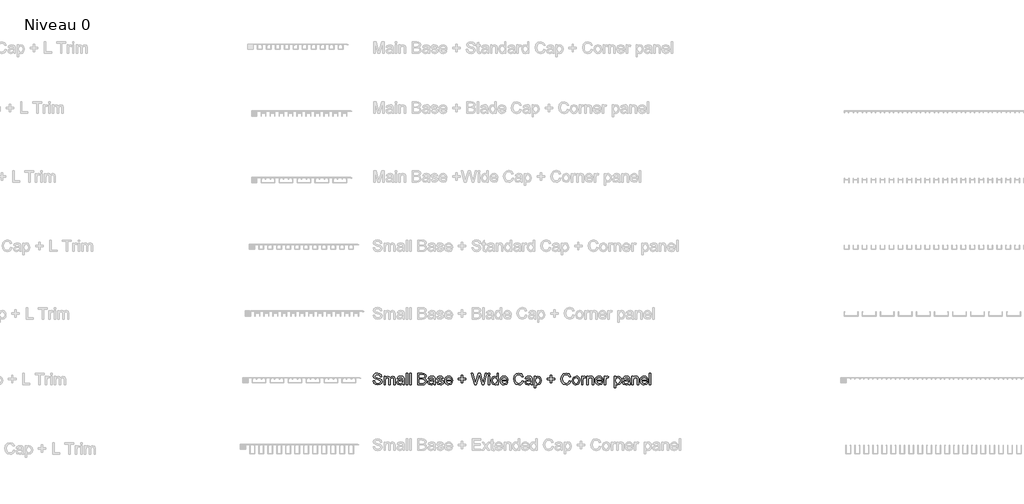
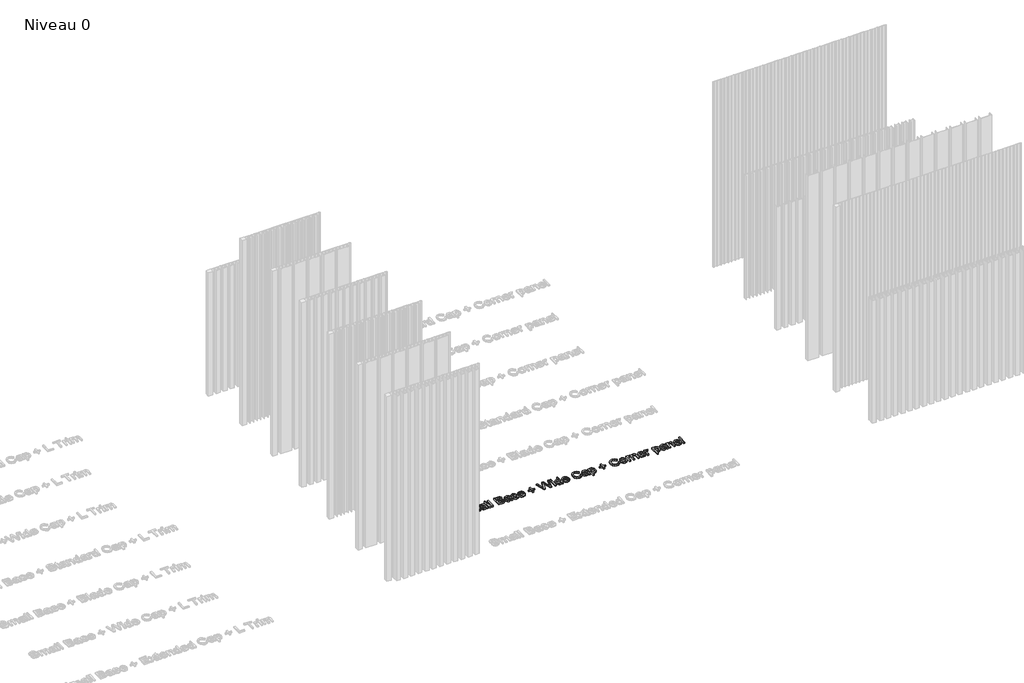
# One storey, part 13 of 25: 1 proxy.
"""IFC4 building model written with IfcOpenShell, lengths in millimetres."""

from ifc_helpers import new_model, si_unit, origin, origin_with_axes, place, context, project, spatial, polyline, outline, extrude, element, save

model = new_model("IFC4")

# Units and contexts
model_context = context("Model", 3, world=origin())
ifc_project = project(units=[si_unit("LENGTHUNIT", "METRE", prefix="MILLI")], contexts=[model_context])

# Site, building, storey
site = spatial("IfcSite", under=ifc_project)
building = spatial("IfcBuilding", under=site)
storey = spatial("IfcBuildingStorey", under=building, Name="Niveau 0", Elevation=0.0)

# Proxy
placement = place(None, origin())
element("IfcBuildingElementProxy", 1, Name="70mm Arial", ObjectType="70mm Arial", at=placement, inside=storey, context=model_context, shape_type="SweptSolid", body=[
    extrude(outline(polyline([(3882.8802856, 2508.3706743), (3891.6702128, 2508.3706743), (3894.5029041, 2499.5721633), (3901.4215382, 2494.0097875), (3911.9625836, 2491.8895609), (3921.1473708, 2493.4947527), (3927.0788548, 2497.9068841), (3929.0274031, 2503.8040325), (3927.5681379, 2509.289153), (3921.5937343, 2513.2806727), (3908.7951196, 2516.6369827), (3895.0179389, 2520.9718589), (3887.5413505, 2527.5128008), (3885.0777674, 2536.2512245), (3888.1250566, 2546.1999799), (3897.0265746, 2553.2216209), (3910.0569549, 2555.6165327), (3923.9628943, 2553.11003), (3933.2335206, 2545.7450325), (3936.7185893, 2534.7404557), (3927.9286622, 2534.7404557), (3922.9499925, 2543.7707324), (3910.4003114, 2546.8266055), (3897.8162946, 2543.8050681), (3893.8676945, 2536.5087418), (3896.6660503, 2530.4141635), (3911.0183532, 2525.5041651), (3926.5724039, 2521.0920337), (3935.0790619, 2513.9673857), (3937.8173302, 2504.0272142), (3934.6670341, 2493.5119205), (3925.6024217, 2485.8379021), (3912.3059401, 2483.0996338), (3896.6059629, 2486.0524999), (3886.6743753, 2494.945434), (3882.8802856, 2508.3706743)])), origin_with_axes(), (0.0, 0.0, 1.0), 10.0),
    extrude(outline(polyline([(3949.9034801, 2484.1983747), (3949.9034801, 2535.8391966), (3958.6934072, 2535.8391966), (3958.6934072, 2527.3411225), (3964.7364821, 2534.3026761), (3973.3375631, 2536.9379375), (3982.1446581, 2534.2511727), (3986.9859852, 2526.7230808), (3993.8445318, 2534.3842233), (4002.5057003, 2536.9379375), (4013.9995601, 2532.6889005), (4018.0254154, 2519.5984328), (4018.0254154, 2484.1983747), (4009.2354882, 2484.1983747), (4009.2354882, 2515.821511), (4008.4200165, 2523.1607568), (4005.4671503, 2526.7745843), (4000.4455611, 2528.1480104), (3991.8015605, 2524.6286059), (3988.3594113, 2513.349344), (3988.3594113, 2484.1983747), (3979.5694841, 2484.1983747), (3979.5694841, 2516.8000771), (3977.5350967, 2525.315319), (3970.8653961, 2528.1480104), (3964.3587899, 2526.2595495), (3960.0324977, 2520.7315093), (3958.6934072, 2510.2419674), (3958.6934072, 2484.1983747), (3949.9034801, 2484.1983747)])), origin_with_axes(), (0.0, 0.0, 1.0), 10.0),
    extrude(outline(polyline([(4064.1725329, 2490.79082), (4055.648707, 2484.8335843), (4046.2321542, 2483.0996338), (4033.4678753, 2487.2714156), (4029.0128243, 2497.9326358), (4030.6952713, 2504.8856055), (4035.1159866, 2509.9329465), (4041.2706524, 2512.8171414), (4048.8759995, 2514.139064), (4064.1210294, 2517.1606014), (4064.1725329, 2519.1177337), (4061.7518693, 2525.6071721), (4052.0348796, 2528.1480104), (4043.1419455, 2526.4569795), (4038.9014923, 2520.4568241), (4030.1115652, 2521.555565), (4033.9142387, 2530.1394782), (4041.5710893, 2535.1696514), (4053.1679561, 2536.9379375), (4063.8205924, 2535.3756653), (4069.8379156, 2531.452817), (4072.5332643, 2525.4869973), (4072.96246, 2517.795811), (4072.96246, 2506.8599056), (4073.4088235, 2491.589124), (4075.1599418, 2484.1983747), (4066.3700146, 2484.1983747), (4064.1725329, 2490.79082)]), holes=[polyline([(4064.1725329, 2508.3706743), (4049.9919082, 2505.6753256), (4042.4294807, 2504.250396), (4039.0044993, 2501.9327394), (4037.8027514, 2498.5506776), (4040.420845, 2493.7951897), (4048.1034473, 2491.8895609), (4056.9963814, 2493.9926197), (4062.7304354, 2499.0828802), (4064.1210294, 2505.8813395), (4064.1725329, 2508.3706743)])]), origin_with_axes(), (0.0, 0.0, 1.0), 10.0),
    extrude(outline(polyline([(4085.0486098, 2484.1983747), (4085.0486098, 2554.5177918), (4093.8385369, 2554.5177918), (4093.8385369, 2484.1983747), (4085.0486098, 2484.1983747)])), origin_with_axes(), (0.0, 0.0, 1.0), 10.0),
    extrude(outline(polyline([(4107.0234276, 2484.1983747), (4107.0234276, 2554.5177918), (4115.8133548, 2554.5177918), (4115.8133548, 2484.1983747), (4107.0234276, 2484.1983747)])), origin_with_axes(), (0.0, 0.0, 1.0), 10.0),
    extrude(outline(polyline([(4157.5655087, 2484.1983747), (4157.5655087, 2554.5177918), (4184.3988214, 2554.5177918), (4197.5407926, 2552.4490687), (4205.3006501, 2546.088389), (4208.1075897, 2537.0924479), (4205.7470136, 2528.877643), (4198.6137817, 2522.6543059), (4207.2749502, 2516.0961962), (4210.3050715, 2505.1602908), (4208.2363484, 2495.7094023), (4203.1117522, 2488.9796143), (4195.4634856, 2485.4087064), (4184.1928075, 2484.1983747), (4157.5655087, 2484.1983747)]), holes=[polyline([(4166.3554358, 2492.9883018), (4184.3816536, 2492.9883018), (4190.9054276, 2493.3316583), (4196.4248838, 2495.245871), (4200.0816309, 2499.1515515), (4201.5151444, 2505.0744516), (4199.8326974, 2511.9072466), (4194.3819125, 2515.9846053), (4183.5232623, 2517.1606014), (4166.3554358, 2517.1606014), (4166.3554358, 2492.9883018)]), polyline([(4166.3554358, 2525.9505286), (4182.4073536, 2525.9505286), (4191.7809868, 2526.7059129), (4197.4206178, 2529.9592161), (4199.3176626, 2535.6846862), (4197.5493765, 2541.4187402), (4192.4848677, 2544.8093859), (4181.1884379, 2545.7278646), (4166.3554358, 2545.7278646), (4166.3554358, 2525.9505286)])]), origin_with_axes(), (0.0, 0.0, 1.0), 10.0),
    extrude(outline(polyline([(4254.2547072, 2490.79082), (4245.7308814, 2484.8335843), (4236.3143286, 2483.0996338), (4223.5500496, 2487.2714156), (4219.0949987, 2497.9326358), (4220.7774457, 2504.8856055), (4225.198161, 2509.9329465), (4231.3528267, 2512.8171414), (4238.9581739, 2514.139064), (4254.2032037, 2517.1606014), (4254.2547072, 2519.1177337), (4251.8340437, 2525.6071721), (4242.1170539, 2528.1480104), (4233.2241198, 2526.4569795), (4228.9836667, 2520.4568241), (4220.1937396, 2521.555565), (4223.9964131, 2530.1394782), (4231.6532637, 2535.1696514), (4243.2501305, 2536.9379375), (4253.9027668, 2535.3756653), (4259.9200899, 2531.452817), (4262.6154387, 2525.4869973), (4263.0446343, 2517.795811), (4263.0446343, 2506.8599056), (4263.4909978, 2491.589124), (4265.2421161, 2484.1983747), (4256.452189, 2484.1983747), (4254.2547072, 2490.79082)]), holes=[polyline([(4254.2547072, 2508.3706743), (4240.0740826, 2505.6753256), (4232.511655, 2504.250396), (4229.0866736, 2501.9327394), (4227.8849258, 2498.5506776), (4230.5030193, 2493.7951897), (4238.1856217, 2491.8895609), (4247.0785558, 2493.9926197), (4252.8126098, 2499.0828802), (4254.2032037, 2505.8813395), (4254.2547072, 2508.3706743)])]), origin_with_axes(), (0.0, 0.0, 1.0), 10.0),
    extrude(outline(polyline([(4271.8345615, 2499.5807472), (4280.6244886, 2500.6794881), (4284.6932635, 2494.155714), (4294.0153933, 2491.8895609), (4302.9769987, 2493.9668679), (4305.8955291, 2498.8425306), (4302.9598308, 2502.7911307), (4293.9123863, 2505.2976334), (4280.6759921, 2509.5981739), (4274.8990185, 2514.6197631), (4272.9333024, 2521.7100755), (4274.5127424, 2528.2596012), (4278.8218668, 2533.2640226), (4284.4099944, 2535.8649484), (4291.9724219, 2536.9379375), (4302.6679778, 2535.212571), (4309.466437, 2530.5429222), (4312.4879745, 2522.6543059), (4303.6980474, 2521.555565), (4300.3932408, 2526.405476), (4292.659135, 2528.1480104), (4284.2469, 2526.4827312), (4281.7232295, 2522.6028024), (4282.7704669, 2520.0447963), (4286.0495218, 2518.1048319), (4293.6205332, 2516.2335388), (4306.5221548, 2512.0960926), (4312.5137262, 2507.409276), (4314.6854563, 2499.7695933), (4312.1360341, 2491.3573583), (4304.7796204, 2485.254196), (4293.8952185, 2483.0996338), (4278.5643495, 2487.2542478), (4271.8345615, 2499.5807472)])), origin_with_axes(), (0.0, 0.0, 1.0), 10.0),
    extrude(outline(polyline([(4360.7295668, 2499.5807472), (4369.3478157, 2498.4820063), (4361.2875212, 2487.134073), (4346.2742569, 2483.0996338), (4335.9606852, 2484.8400222), (4328.0248574, 2490.0611874), (4322.9646406, 2498.4240649), (4321.2779016, 2509.58959), (4322.9818084, 2521.1306613), (4328.0935287, 2529.7617861), (4335.9220576, 2535.1438996), (4345.77639, 2536.9379375), (4355.3238475, 2535.1481916), (4362.9528003, 2529.7789539), (4367.9550758, 2521.164997), (4369.6225009, 2509.6410935), (4369.5709974, 2507.2719334), (4330.0678288, 2507.2719334), (4335.1237537, 2495.8553288), (4346.4459352, 2491.8895609), (4355.0641841, 2493.7265184), (4360.7295668, 2499.5807472)]), holes=[polyline([(4330.0678288, 2516.0618606), (4360.8325738, 2516.0618606), (4357.3131693, 2524.027732), (4345.7420543, 2528.1480104), (4334.9177397, 2524.8603716), (4330.0678288, 2516.0618606)])]), origin_with_axes(), (0.0, 0.0, 1.0), 10.0),
    extrude(outline(polyline([(4423.4608046, 2495.1857836), (4423.4608046, 2513.8643788), (4404.7822095, 2513.8643788), (4404.7822095, 2522.6543059), (4423.4608046, 2522.6543059), (4423.4608046, 2541.3329011), (4432.2507318, 2541.3329011), (4432.2507318, 2522.6543059), (4450.9293269, 2522.6543059), (4450.9293269, 2513.8643788), (4432.2507318, 2513.8643788), (4432.2507318, 2495.1857836), (4423.4608046, 2495.1857836)])), origin_with_axes(), (0.0, 0.0, 1.0), 10.0),
    extrude(outline(polyline([(4504.1667567, 2484.1983747), (4484.9902946, 2554.5177918), (4494.0549069, 2554.5177918), (4505.1796585, 2508.302003), (4508.6132238, 2494.0355392), (4512.2871386, 2506.6538917), (4526.2274137, 2554.5177918), (4539.2921296, 2554.5177918), (4549.4211472, 2519.8216145), (4556.957823, 2494.0355392), (4560.2883814, 2507.8899752), (4571.5161399, 2554.5177918), (4580.5807522, 2554.5177918), (4561.3871223, 2484.1983747), (4551.9963212, 2484.1983747), (4535.1375156, 2538.4487062), (4532.7855234, 2546.0197177), (4530.1416781, 2536.9036019), (4514.7764735, 2484.1983747), (4504.1667567, 2484.1983747)])), origin_with_axes(), (0.0, 0.0, 1.0), 10.0),
    extrude(outline(polyline([(4588.2719385, 2545.7278646), (4588.2719385, 2554.5177918), (4597.0618656, 2554.5177918), (4597.0618656, 2545.7278646), (4588.2719385, 2545.7278646)])), origin_with_axes(), (0.0, 0.0, 1.0), 10.0),
    extrude(outline(polyline([(4588.2719385, 2484.1983747), (4588.2719385, 2535.8391966), (4597.0618656, 2535.8391966), (4597.0618656, 2484.1983747), (4588.2719385, 2484.1983747)])), origin_with_axes(), (0.0, 0.0, 1.0), 10.0),
    extrude(outline(polyline([(4642.1102422, 2484.1983747), (4642.1102422, 2492.4904349), (4636.294641, 2485.4473341), (4628.2558062, 2483.0996338), (4617.3714043, 2486.4988634), (4609.680218, 2495.9840875), (4606.9505336, 2509.9672822), (4609.4656202, 2523.9590607), (4617.002296, 2533.5902114), (4628.2214706, 2536.9379375), (4636.3246847, 2534.5430257), (4642.1102422, 2528.3196886), (4642.1102422, 2554.5177918), (4650.9001693, 2554.5177918), (4650.9001693, 2484.1983747), (4642.1102422, 2484.1983747)]), holes=[polyline([(4615.7404608, 2510.0016178), (4619.7062287, 2496.3961154), (4629.0626941, 2491.8895609), (4638.3075686, 2496.1901014), (4642.1102422, 2509.3320726), (4638.2388973, 2523.5985364), (4628.7021697, 2528.1480104), (4619.4487113, 2523.7787985), (4615.7404608, 2510.0016178)])]), origin_with_axes(), (0.0, 0.0, 1.0), 10.0),
    extrude(outline(polyline([(4700.2405025, 2499.5807472), (4708.8587514, 2498.4820063), (4700.7984569, 2487.134073), (4685.7851926, 2483.0996338), (4675.4716209, 2484.8400222), (4667.5357931, 2490.0611874), (4662.4755763, 2498.4240649), (4660.7888373, 2509.58959), (4662.4927441, 2521.1306613), (4667.6044644, 2529.7617861), (4675.4329933, 2535.1438996), (4685.2873257, 2536.9379375), (4694.8347832, 2535.1481916), (4702.463736, 2529.7789539), (4707.4660115, 2521.164997), (4709.1334366, 2509.6410935), (4709.0819331, 2507.2719334), (4669.5787645, 2507.2719334), (4674.6346894, 2495.8553288), (4685.9568709, 2491.8895609), (4694.5751198, 2493.7265184), (4700.2405025, 2499.5807472)]), holes=[polyline([(4669.5787645, 2516.0618606), (4700.3435095, 2516.0618606), (4696.824105, 2524.027732), (4685.25299, 2528.1480104), (4674.4286755, 2524.8603716), (4669.5787645, 2516.0618606)])]), origin_with_axes(), (0.0, 0.0, 1.0), 10.0),
    extrude(outline(polyline([(4795.9339671, 2509.19473), (4804.7238942, 2506.9285769), (4800.6679952, 2496.6858224), (4794.3030236, 2489.2027961), (4785.9422921, 2484.6254244), (4775.8991136, 2483.0996338), (4757.6067946, 2487.7177791), (4746.876903, 2501.0915159), (4743.1944043, 2519.8902859), (4747.3576022, 2538.9980767), (4759.1948185, 2551.3846635), (4776.0879597, 2555.6165327), (4793.6935657, 2550.139996), (4803.6251533, 2534.7232879), (4794.8352262, 2532.6288131), (4787.6247391, 2543.4359598), (4775.7446032, 2546.8266055), (4761.9931742, 2543.0668515), (4754.2247328, 2532.9721696), (4751.9843314, 2519.9074537), (4754.6367606, 2504.7654308), (4762.8944851, 2495.0913606), (4775.0235545, 2491.8895609), (4788.4745465, 2496.2501888), (4795.9339671, 2509.19473)])), origin_with_axes(), (0.0, 0.0, 1.0), 10.0),
    extrude(outline(polyline([(4848.6735299, 2490.79082), (4840.1497041, 2484.8335843), (4830.7331513, 2483.0996338), (4817.9688723, 2487.2714156), (4813.5138214, 2497.9326358), (4815.1962684, 2504.8856055), (4819.6169837, 2509.9329465), (4825.7716495, 2512.8171414), (4833.3769966, 2514.139064), (4848.6220264, 2517.1606014), (4848.6735299, 2519.1177337), (4846.2528664, 2525.6071721), (4836.5358766, 2528.1480104), (4827.6429425, 2526.4569795), (4823.4024894, 2520.4568241), (4814.6125623, 2521.555565), (4818.4152358, 2530.1394782), (4826.0720864, 2535.1696514), (4837.6689532, 2536.9379375), (4848.3215895, 2535.3756653), (4854.3389127, 2531.452817), (4857.0342614, 2525.4869973), (4857.4634571, 2517.795811), (4857.4634571, 2506.8599056), (4857.9098206, 2491.589124), (4859.6609388, 2484.1983747), (4850.8710117, 2484.1983747), (4848.6735299, 2490.79082)]), holes=[polyline([(4848.6735299, 2508.3706743), (4834.4929053, 2505.6753256), (4826.9304777, 2504.250396), (4823.5054964, 2501.9327394), (4822.3037485, 2498.5506776), (4824.921842, 2493.7951897), (4832.6044444, 2491.8895609), (4841.4973785, 2493.9926197), (4847.2314325, 2499.0828802), (4848.6220264, 2505.8813395), (4848.6735299, 2508.3706743)])]), origin_with_axes(), (0.0, 0.0, 1.0), 10.0),
    extrude(outline(polyline([(4869.5496069, 2464.4210386), (4869.5496069, 2535.8391966), (4878.339534, 2535.8391966), (4878.339534, 2527.2209477), (4884.4169446, 2534.5086901), (4892.6231656, 2536.9379375), (4903.765085, 2533.5387079), (4911.0442434, 2523.9590607), (4913.4992426, 2510.4136457), (4910.7266386, 2496.1729336), (4902.674928, 2486.4731117), (4891.5587604, 2483.0996338), (4883.9104937, 2485.357203), (4878.339534, 2491.0655053), (4878.339534, 2464.4210386), (4869.5496069, 2464.4210386)]), holes=[polyline([(4878.339534, 2509.6067578), (4882.1422076, 2496.2158532), (4891.3699143, 2491.8895609), (4900.7864671, 2496.3703636), (4904.7093154, 2510.2591352), (4900.8808901, 2523.6843755), (4891.7304386, 2528.1480104), (4882.399725, 2523.4011064), (4878.339534, 2509.6067578)])]), origin_with_axes(), (0.0, 0.0, 1.0), 10.0),
    extrude(outline(polyline([(4968.4362872, 2495.1857836), (4968.4362872, 2513.8643788), (4949.757692, 2513.8643788), (4949.757692, 2522.6543059), (4968.4362872, 2522.6543059), (4968.4362872, 2541.3329011), (4977.2262143, 2541.3329011), (4977.2262143, 2522.6543059), (4995.9048095, 2522.6543059), (4995.9048095, 2513.8643788), (4977.2262143, 2513.8643788), (4977.2262143, 2495.1857836), (4968.4362872, 2495.1857836)])), origin_with_axes(), (0.0, 0.0, 1.0), 10.0),
    extrude(outline(polyline([(5086.0015627, 2509.19473), (5094.7914898, 2506.9285769), (5090.7355908, 2496.6858224), (5084.3706191, 2489.2027961), (5076.0098877, 2484.6254244), (5065.9667092, 2483.0996338), (5047.6743901, 2487.7177791), (5036.9444986, 2501.0915159), (5033.2619998, 2519.8902859), (5037.4251977, 2538.9980767), (5049.2624141, 2551.3846635), (5066.1555553, 2555.6165327), (5083.7611613, 2550.139996), (5093.6927489, 2534.7232879), (5084.9028218, 2532.6288131), (5077.6923347, 2543.4359598), (5065.8121988, 2546.8266055), (5052.0607698, 2543.0668515), (5044.2923283, 2532.9721696), (5042.051927, 2519.9074537), (5044.7043561, 2504.7654308), (5052.9620807, 2495.0913606), (5065.09115, 2491.8895609), (5078.5421421, 2496.2501888), (5086.0015627, 2509.19473)])), origin_with_axes(), (0.0, 0.0, 1.0), 10.0),
    extrude(outline(polyline([(5103.5814169, 2510.0187856), (5105.4827537, 2522.4697518), (5111.186764, 2531.2210513), (5126.6721435, 2536.9379375), (5135.9062881, 2535.1975491), (5143.2820156, 2529.9763839), (5148.1169047, 2521.6864697), (5149.7285344, 2510.7398344), (5146.8786752, 2495.0999445), (5138.5780311, 2486.2499299), (5126.6721435, 2483.0996338), (5117.326408, 2484.8335843), (5109.9592645, 2490.0354357), (5105.1758788, 2498.4991741), (5103.5814169, 2510.0187856)]), holes=[polyline([(5112.3713441, 2510.0359535), (5116.4401189, 2496.4132832), (5126.6721435, 2491.8895609), (5136.8698324, 2496.4390349), (5140.9386073, 2510.3106387), (5136.8440807, 2523.6242881), (5126.6721435, 2528.1480104), (5116.4401189, 2523.6414559), (5112.3713441, 2510.0359535)])]), origin_with_axes(), (0.0, 0.0, 1.0), 10.0),
    extrude(outline(polyline([(5159.6172024, 2484.1983747), (5159.6172024, 2535.8391966), (5167.3083887, 2535.8391966), (5167.3083887, 2528.1995138), (5172.7677575, 2535.2383227), (5178.261462, 2536.9379375), (5187.0857247, 2534.2254209), (5184.1500264, 2526.3453886), (5177.9696089, 2528.1480104), (5172.9995231, 2526.4140599), (5169.8320592, 2521.6070685), (5168.4071296, 2511.3407083), (5168.4071296, 2484.1983747), (5159.6172024, 2484.1983747)])), origin_with_axes(), (0.0, 0.0, 1.0), 10.0),
    extrude(outline(polyline([(5192.5794292, 2484.1983747), (5192.5794292, 2535.8391966), (5201.3693563, 2535.8391966), (5201.3693563, 2528.6287095), (5208.0905604, 2534.8606305), (5217.2667636, 2536.9379375), (5225.5674077, 2535.2640744), (5231.2327904, 2530.8691109), (5233.8680518, 2524.4054242), (5234.3315831, 2515.9073501), (5234.3315831, 2484.1983747), (5225.541656, 2484.1983747), (5225.541656, 2514.7227701), (5224.5287542, 2522.4997955), (5220.9492624, 2526.6114899), (5214.9147714, 2528.1480104), (5205.3780438, 2524.6972773), (5201.3693563, 2511.5982257), (5201.3693563, 2484.1983747), (5192.5794292, 2484.1983747)])), origin_with_axes(), (0.0, 0.0, 1.0), 10.0),
    extrude(outline(polyline([(5282.5731754, 2499.5807472), (5291.1914243, 2498.4820063), (5283.1311298, 2487.134073), (5268.1178655, 2483.0996338), (5257.8042938, 2484.8400222), (5249.868466, 2490.0611874), (5244.8082492, 2498.4240649), (5243.1215102, 2509.58959), (5244.825417, 2521.1306613), (5249.9371373, 2529.7617861), (5257.7656662, 2535.1438996), (5267.6199986, 2536.9379375), (5277.1674561, 2535.1481916), (5284.7964089, 2529.7789539), (5289.7986844, 2521.164997), (5291.4661095, 2509.6410935), (5291.414606, 2507.2719334), (5251.9114374, 2507.2719334), (5256.9673623, 2495.8553288), (5268.2895438, 2491.8895609), (5276.9077927, 2493.7265184), (5282.5731754, 2499.5807472)]), holes=[polyline([(5251.9114374, 2516.0618606), (5282.6761824, 2516.0618606), (5279.1567779, 2524.027732), (5267.5856629, 2528.1480104), (5256.7613484, 2524.8603716), (5251.9114374, 2516.0618606)])]), origin_with_axes(), (0.0, 0.0, 1.0), 10.0),
    extrude(outline(polyline([(5300.2560366, 2484.1983747), (5300.2560366, 2535.8391966), (5307.9472229, 2535.8391966), (5307.9472229, 2528.1995138), (5313.4065917, 2535.2383227), (5318.9002962, 2536.9379375), (5327.724559, 2534.2254209), (5324.7888606, 2526.3453886), (5318.6084431, 2528.1480104), (5313.6383574, 2526.4140599), (5310.4708934, 2521.6070685), (5309.0459638, 2511.3407083), (5309.0459638, 2484.1983747), (5300.2560366, 2484.1983747)])), origin_with_axes(), (0.0, 0.0, 1.0), 10.0),
    extrude(outline(polyline([(5360.6867857, 2464.4210386), (5360.6867857, 2535.8391966), (5369.4767129, 2535.8391966), (5369.4767129, 2527.2209477), (5375.5541234, 2534.5086901), (5383.7603445, 2536.9379375), (5394.9022638, 2533.5387079), (5402.1814222, 2523.9590607), (5404.6364214, 2510.4136457), (5401.8638174, 2496.1729336), (5393.8121068, 2486.4731117), (5382.6959392, 2483.0996338), (5375.0476725, 2485.357203), (5369.4767129, 2491.0655053), (5369.4767129, 2464.4210386), (5360.6867857, 2464.4210386)]), holes=[polyline([(5369.4767129, 2509.6067578), (5373.2793864, 2496.2158532), (5382.5070931, 2491.8895609), (5391.9236459, 2496.3703636), (5395.8464943, 2510.2591352), (5392.018069, 2523.6843755), (5382.8676175, 2528.1480104), (5373.5369038, 2523.4011064), (5369.4767129, 2509.6067578)])]), origin_with_axes(), (0.0, 0.0, 1.0), 10.0),
    extrude(outline(polyline([(5447.4873162, 2490.79082), (5438.9634904, 2484.8335843), (5429.5469376, 2483.0996338), (5416.7826586, 2487.2714156), (5412.3276077, 2497.9326358), (5414.0100546, 2504.8856055), (5418.43077, 2509.9329465), (5424.5854357, 2512.8171414), (5432.1907828, 2514.139064), (5447.4358127, 2517.1606014), (5447.4873162, 2519.1177337), (5445.0666527, 2525.6071721), (5435.3496629, 2528.1480104), (5426.4567288, 2526.4569795), (5422.2162757, 2520.4568241), (5413.4263485, 2521.555565), (5417.2290221, 2530.1394782), (5424.8858727, 2535.1696514), (5436.4827395, 2536.9379375), (5447.1353758, 2535.3756653), (5453.1526989, 2531.452817), (5455.8480477, 2525.4869973), (5456.2772433, 2517.795811), (5456.2772433, 2506.8599056), (5456.7236068, 2491.589124), (5458.4747251, 2484.1983747), (5449.684798, 2484.1983747), (5447.4873162, 2490.79082)]), holes=[polyline([(5447.4873162, 2508.3706743), (5433.3066916, 2505.6753256), (5425.744264, 2504.250396), (5422.3192826, 2501.9327394), (5421.1175348, 2498.5506776), (5423.7356283, 2493.7951897), (5431.4182307, 2491.8895609), (5440.3111648, 2493.9926197), (5446.0452188, 2499.0828802), (5447.4358127, 2505.8813395), (5447.4873162, 2508.3706743)])]), origin_with_axes(), (0.0, 0.0, 1.0), 10.0),
    extrude(outline(polyline([(5468.3633932, 2484.1983747), (5468.3633932, 2535.8391966), (5477.1533203, 2535.8391966), (5477.1533203, 2528.6287095), (5483.8745244, 2534.8606305), (5493.0507276, 2536.9379375), (5501.3513717, 2535.2640744), (5507.0167544, 2530.8691109), (5509.6520158, 2524.4054242), (5510.1155471, 2515.9073501), (5510.1155471, 2484.1983747), (5501.3256199, 2484.1983747), (5501.3256199, 2514.7227701), (5500.3127182, 2522.4997955), (5496.7332264, 2526.6114899), (5490.6987354, 2528.1480104), (5481.1620078, 2524.6972773), (5477.1533203, 2511.5982257), (5477.1533203, 2484.1983747), (5468.3633932, 2484.1983747)])), origin_with_axes(), (0.0, 0.0, 1.0), 10.0),
    extrude(outline(polyline([(5558.3571394, 2499.5807472), (5566.9753882, 2498.4820063), (5558.9150937, 2487.134073), (5543.9018295, 2483.0996338), (5533.5882578, 2484.8400222), (5525.65243, 2490.0611874), (5520.5922132, 2498.4240649), (5518.9054742, 2509.58959), (5520.609381, 2521.1306613), (5525.7211013, 2529.7617861), (5533.5496302, 2535.1438996), (5543.4039625, 2536.9379375), (5552.95142, 2535.1481916), (5560.5803729, 2529.7789539), (5565.5826483, 2521.164997), (5567.2500735, 2509.6410935), (5567.19857, 2507.2719334), (5527.6954013, 2507.2719334), (5532.7513262, 2495.8553288), (5544.0735078, 2491.8895609), (5552.6917566, 2493.7265184), (5558.3571394, 2499.5807472)]), holes=[polyline([(5527.6954013, 2516.0618606), (5558.4601463, 2516.0618606), (5554.9407419, 2524.027732), (5543.3696269, 2528.1480104), (5532.5453123, 2524.8603716), (5527.6954013, 2516.0618606)])]), origin_with_axes(), (0.0, 0.0, 1.0), 10.0),
    extrude(outline(polyline([(5576.0400006, 2484.1983747), (5576.0400006, 2554.5177918), (5584.8299277, 2554.5177918), (5584.8299277, 2484.1983747), (5576.0400006, 2484.1983747)])), origin_with_axes(), (0.0, 0.0, 1.0), 10.0),
])

save(model, "model.ifc")
